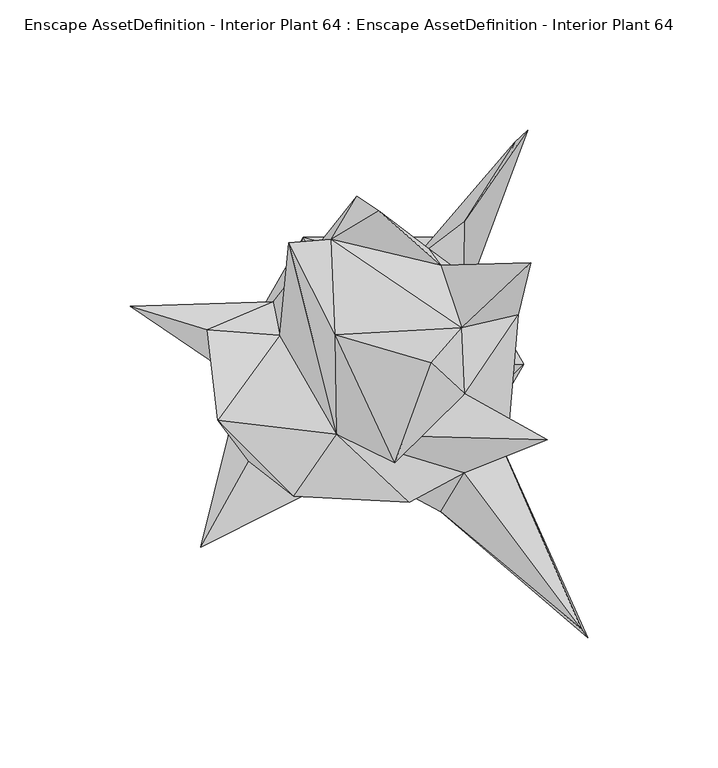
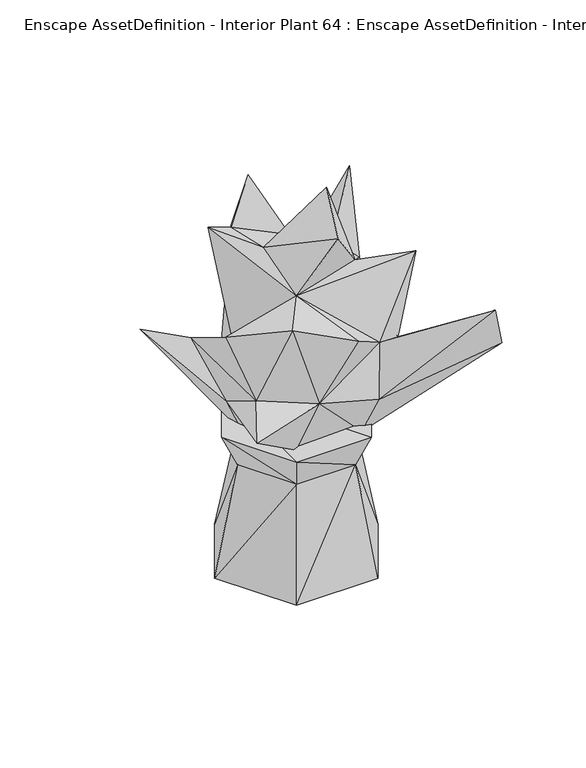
"""IFC4 building model written with IfcOpenShell, lengths in millimetres: geographic element geometry, Enscape AssetDefinition - Interior Plant 64 : Enscape AssetDefinition - Interior Plant 64."""

from ifc_helpers import new_model, si_unit, origin, place, context, project, spatial, faceted_brep, source, transform, mapped, element, save


def enscape_assetdefinition_interior_plant_64_enscape_317deba9(model_context):
    return source(origin(), model_context, "Body", "Brep", [
        faceted_brep([(54.432001, 19.0639999, 183.6680025), (35.9990001, -16.8590005, 116.1950007), (33.1859998, 23.5210005, 106.7629978), (29.9190003, -26.4570005, 93.2060033), (81.0929984, -105.1699966, 187.3439997), (49.7159995, -35.3659987, 160.4190022), (78.6639974, -101.8209979, 209.8570019), (24.4999994, -56.7840002, 136.8100047), (65.5129999, -29.0879998, 213.7459964), (33.6459987, -41.6960008, 165.722996), (33.7119997, -11.4320004, 207.7610046), (-6.9269999, -39.818, 134.0249926), (-15.4499998, -26.9879997, 208.1400007), (12.3640001, -53.0770011, 180.9100062), (32.6480009, 13.9570003, 207.3470056), (6.8040001, -37.8249995, 248.4550029), (20.9940001, 0.496, 257.8729987), (-16.0419997, 11.2730004, 220.2280015), (24.6280003, 38.1040014, 188.5370016), (-17.4870007, 48.1210016, 213.2990062), (59.1150001, 39.0519984, 236.6839945), (-33.9579992, 46.7219986, 219.7300047), (-37.2680016, 11.0790003, 158.5700065), (-7.8250002, 64.4979998, 201.2989968), (0.764, 58.9150004, 238.4929955), (-65.128997, 13.1890001, 170.389995), (-39.9120003, 24.0770001, 126.0409951), (-61.1810014, -21.5670001, 190.3969944), (-31.9080018, -50.6610014, 202.530995), (-49.2709987, -37.3639986, 149.673), (-94.8719978, 22.2510006, 181.4409941), (-51.9680008, -6.7960001, 131.7989975), (-67.7660033, -70.3509971, 145.243004), (-17.0879997, -29.6940003, 97.6819992), (-28.1920005, 14.2620001, 87.3270035), (-24.7070007, -17.3119996, 13.4009998), (9.9830003, 35.1199992, 97.0140025), (5.9400001, 24.4469997, 14.6690002), (23.1640004, -10.555, 14.2590003), (53.0490018, 85.4339972, 140.8910006), (33.4899984, 54.7970012, 134.8019987), (19.9350007, 44.4689989, 156.2640071), (57.9000004, 90.0039971, 168.3239937)], [[[0, 1, 2]], [[2, 1, 3]], [[4, 3, 1]], [[4, 1, 5]], [[0, 5, 1]], [[6, 4, 5]], [[6, 7, 4]], [[7, 3, 4]], [[8, 9, 5]], [[10, 5, 0]], [[8, 5, 10]], [[9, 6, 5]], [[6, 9, 7]], [[11, 3, 7]], [[7, 9, 11]], [[9, 8, 12]], [[13, 11, 9]], [[13, 9, 12]], [[10, 12, 8]], [[10, 0, 14]], [[15, 10, 16]], [[16, 10, 14]], [[15, 12, 10]], [[16, 14, 17]], [[17, 15, 16]], [[14, 18, 19]], [[17, 14, 19]], [[20, 14, 0]], [[14, 20, 18]], [[17, 19, 21]], [[15, 17, 12]], [[12, 17, 21]], [[22, 19, 23]], [[22, 21, 19]], [[19, 18, 24]], [[19, 24, 23]], [[22, 12, 21]], [[25, 22, 26]], [[27, 22, 25]], [[27, 12, 22]], [[26, 22, 23]], [[12, 28, 13]], [[27, 28, 12]], [[27, 25, 29]], [[29, 28, 27]], [[26, 30, 25]], [[31, 29, 25]], [[31, 25, 30]], [[28, 29, 11]], [[32, 11, 29]], [[32, 29, 31]], [[13, 28, 11]], [[33, 3, 11]], [[32, 33, 11]], [[32, 31, 33]], [[31, 34, 33]], [[30, 34, 31]], [[30, 26, 34]], [[33, 34, 35]], [[34, 36, 37]], [[34, 26, 36]], [[35, 34, 37]], [[35, 3, 33]], [[3, 35, 38]], [[2, 3, 38]], [[38, 35, 37]], [[36, 38, 37]], [[2, 38, 39]], [[38, 36, 39]], [[2, 40, 41]], [[40, 2, 42]], [[0, 2, 41]], [[42, 2, 39]], [[36, 40, 39]], [[42, 39, 40]], [[41, 40, 36]], [[24, 18, 41]], [[24, 41, 23]], [[0, 41, 18]], [[23, 41, 36]], [[20, 0, 18]], [[26, 23, 36]]]),
        faceted_brep([(28.2160006, 48.8720015, 0.0), (28.2160006, -48.8720015, 0.0), (-56.4320013, 0.0, 0.0), (56.4320013, 0.0, 0.0), (20.3840006, -35.3059992, 77.2569999), (-28.2160006, -48.8720015, 0.0), (40.7680012, 0.0, 77.2569999), (-28.2160006, 48.8720015, 0.0), (20.3840006, 35.3059992, 77.2569999), (51.6530015, 0.0, 101.150997), (-20.3840006, 35.3059992, 77.2569999), (25.8269999, 44.7329991, 101.150997), (-40.7680012, 0.0, 77.2569999), (-25.8269999, 44.7329991, 101.150997), (25.8269999, -44.7329991, 101.150997), (-25.8269999, -44.7329991, 101.150997), (-51.6530015, 0.0, 101.150997), (-20.3840006, -35.3059992, 77.2569999)], [[[0, 1, 2]], [[1, 3, 4]], [[1, 0, 3]], [[2, 1, 5]], [[4, 5, 1]], [[3, 0, 6]], [[0, 7, 8]], [[0, 2, 7]], [[6, 0, 8]], [[4, 3, 6]], [[6, 8, 9]], [[9, 4, 6]], [[8, 10, 11]], [[8, 7, 10]], [[9, 8, 11]], [[10, 7, 12]], [[12, 7, 2]], [[10, 12, 13]], [[11, 10, 13]], [[13, 9, 11]], [[13, 14, 9]], [[14, 4, 9]], [[15, 13, 16]], [[13, 15, 14]], [[13, 12, 16]], [[12, 2, 17]], [[12, 17, 16]], [[16, 17, 15]], [[17, 4, 15]], [[15, 4, 14]], [[17, 5, 4]], [[17, 2, 5]]]),
    ])


if __name__ == "__main__":
    model = new_model("IFC4")
    model_context = context("Model", 3, world=origin())
    ifc_project = project(units=[si_unit("LENGTHUNIT", "METRE", prefix="MILLI")], contexts=[model_context])
    site = spatial("IfcSite", under=ifc_project)
    building = spatial("IfcBuilding", under=site)
    placement = place(None, origin())
    enscape_assetdefinition_interior_plant_64_enscape_shape = enscape_assetdefinition_interior_plant_64_enscape_317deba9(model_context)
    element("IfcGeographicElement", 1, ObjectType="Enscape AssetDefinition - Interior Plant 64 : Enscape AssetDefinition - Interior Plant 64", at=placement, inside=building, context=model_context, shape_type="MappedRepresentation", body=[
        mapped(enscape_assetdefinition_interior_plant_64_enscape_shape, transform((0.0, 0.0, 0.0), x_axis=(1.0, 0.0, 0.0), y_axis=(0.0, 1.0, 0.0), z_axis=(0.0, 0.0, 1.0))),
    ])
    save(model, "model.ifc")
